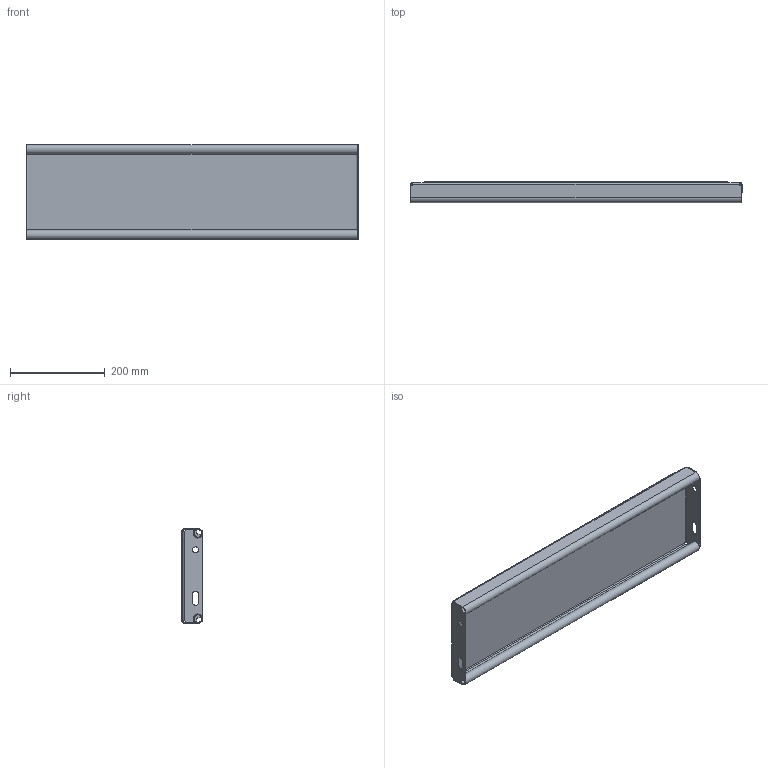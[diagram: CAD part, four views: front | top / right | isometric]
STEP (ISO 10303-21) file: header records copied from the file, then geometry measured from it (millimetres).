
FILE_DESCRIPTION (( 'STEP AP214' ), '1' );
FILE_NAME ('OPTIMO-Tread-Achil-O2-700x200x45x2-st240-F100140100-plain.STEP', '2021-03-15T10:25:24', ( '' ), ( '' ), 'SwSTEP 2.0', 'SolidWorks 2021', '' );
FILE_SCHEMA (( 'AUTOMOTIVE_DESIGN' ));
Length unit declared in the file: millimetre
Products named in the file (1): OPTIMO-Tread-Achil-O2-700x200x45x2-st240-F100140100-plain
Bounding box: 700 x 45 x 200 mm (x, y, z)
Volume: 891458.6 mm3; surface area: 533061.9 mm2
Topology: 1 solids, 1 shells, 248 faces, 640 edges, 412 vertices
Faces by surface type: plane 173, bspline 39, cylinder 36
Entity records: 9924 total; most frequent: CARTESIAN_POINT 4092, ORIENTED_EDGE 1280, DIRECTION 1022, EDGE_CURVE 640, LINE 490, VECTOR 490, VERTEX_POINT 412, EDGE_LOOP 274
